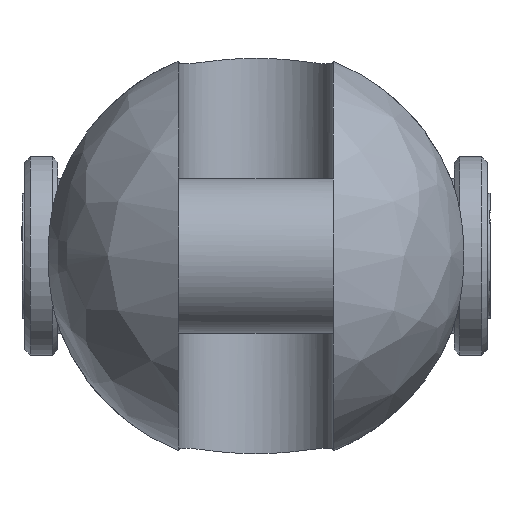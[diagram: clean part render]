
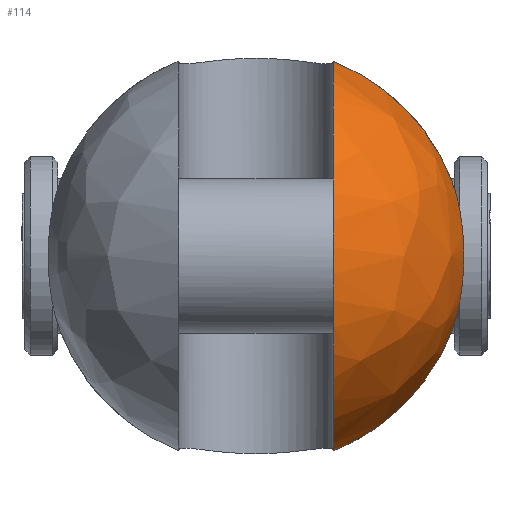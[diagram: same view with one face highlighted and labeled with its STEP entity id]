
A CAD part, left-side view. The second image highlights one B-rep face of the part: STEP entity #114.
In plain terms, the highlighted free-form (B-spline) face has degree [2, 2] with [9, 5] control points.
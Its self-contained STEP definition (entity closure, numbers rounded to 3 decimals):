
#114=ADVANCED_FACE('',(#203),#1555,.T.);
#203=FACE_OUTER_BOUND('',#303,.T.);
#303=EDGE_LOOP('',(#755,#756,#757,#758));
#755=ORIENTED_EDGE('',*,*,#1015,.T.);
#756=ORIENTED_EDGE('',*,*,#1012,.F.);
#757=ORIENTED_EDGE('',*,*,#1030,.T.);
#758=ORIENTED_EDGE('',*,*,#1006,.F.);
#1006=EDGE_CURVE('',#1444,#1445,#1273,.T.);
#1012=EDGE_CURVE('',#1452,#1453,#1274,.T.);
#1015=EDGE_CURVE('',#1444,#1453,#1276,.T.);
#1030=EDGE_CURVE('',#1452,#1445,#1141,.T.);
#1141=B_SPLINE_CURVE_WITH_KNOTS('',3,(#3589,#3590,#3591,#3592,#3593,#3594,
#3595,#3596,#3597,#3598),.UNSPECIFIED.,.F.,.F.,(4,2,2,2,4),(0.,3.573,
7.366,11.159,14.732),.UNSPECIFIED.);
#1273=(
BOUNDED_CURVE()
B_SPLINE_CURVE(2,(#3503,#3504,#3505),.UNSPECIFIED.,.F.,.F.)
B_SPLINE_CURVE_WITH_KNOTS((3,3),(0.,15.92),.UNSPECIFIED.)
CURVE()
GEOMETRIC_REPRESENTATION_ITEM()
RATIONAL_B_SPLINE_CURVE((1.,0.914,1.))
REPRESENTATION_ITEM('')
);
#1274=(
BOUNDED_CURVE()
B_SPLINE_CURVE(2,(#3528,#3529,#3530),.UNSPECIFIED.,.F.,.F.)
B_SPLINE_CURVE_WITH_KNOTS((3,3),(0.,15.92),.UNSPECIFIED.)
CURVE()
GEOMETRIC_REPRESENTATION_ITEM()
RATIONAL_B_SPLINE_CURVE((1.,0.914,1.))
REPRESENTATION_ITEM('')
);
#1276=(
BOUNDED_CURVE()
B_SPLINE_CURVE(2,(#3536,#3537,#3538,#3539,#3540),.UNSPECIFIED.,.F.,.F.)
B_SPLINE_CURVE_WITH_KNOTS((3,2,3),(-55.492,-27.746,
0.),.UNSPECIFIED.)
CURVE()
GEOMETRIC_REPRESENTATION_ITEM()
RATIONAL_B_SPLINE_CURVE((1.,0.707,1.,0.707,1.))
REPRESENTATION_ITEM('')
);
#1444=VERTEX_POINT('',#3335);
#1445=VERTEX_POINT('',#3336);
#1452=VERTEX_POINT('',#3343);
#1453=VERTEX_POINT('',#3344);
#1555=(
BOUNDED_SURFACE()
B_SPLINE_SURFACE(2,2,((#3207,#3208,#3209,#3210,#3211),(#3212,#3213,#3214,
#3215,#3216),(#3217,#3218,#3219,#3220,#3221),(#3222,#3223,#3224,#3225,#3226),
(#3227,#3228,#3229,#3230,#3231),(#3232,#3233,#3234,#3235,#3236),(#3237,
#3238,#3239,#3240,#3241),(#3242,#3243,#3244,#3245,#3246),(#3247,#3248,#3249,
#3250,#3251)),.UNSPECIFIED.,.T.,.F.,.F.)
B_SPLINE_SURFACE_WITH_KNOTS((3,2,2,2,3),(3,2,3),(0.,1.571,3.142,
4.712,6.283),(-1.571,0.,1.571),
 .UNSPECIFIED.)
GEOMETRIC_REPRESENTATION_ITEM()
RATIONAL_B_SPLINE_SURFACE(((1.,0.707,1.,0.707,1.),
(0.707,0.5,0.707,0.5,0.707),(1.,0.707,
1.,0.707,1.),(0.707,0.5,0.707,0.5,0.707),
(1.,0.707,1.,0.707,1.),(0.707,0.5,0.707,
0.5,0.707),(1.,0.707,1.,0.707,1.),(0.707,
0.5,0.707,0.5,0.707),(1.,0.707,1.,0.707,
1.)))
REPRESENTATION_ITEM('')
SURFACE()
);
#3207=CARTESIAN_POINT('',(-26.5,0.,0.));
#3208=CARTESIAN_POINT('',(-26.5,19.,0.));
#3209=CARTESIAN_POINT('',(-7.5,19.,0.));
#3210=CARTESIAN_POINT('',(11.5,19.,0.));
#3211=CARTESIAN_POINT('',(11.5,0.,0.));
#3212=CARTESIAN_POINT('',(-26.5,0.,0.));
#3213=CARTESIAN_POINT('',(-26.5,19.,19.));
#3214=CARTESIAN_POINT('',(-7.5,19.,19.));
#3215=CARTESIAN_POINT('',(11.5,19.,19.));
#3216=CARTESIAN_POINT('',(11.5,0.,0.));
#3217=CARTESIAN_POINT('',(-26.5,0.,0.));
#3218=CARTESIAN_POINT('',(-26.5,0.,19.));
#3219=CARTESIAN_POINT('',(-7.5,0.,19.));
#3220=CARTESIAN_POINT('',(11.5,0.,19.));
#3221=CARTESIAN_POINT('',(11.5,0.,0.));
#3222=CARTESIAN_POINT('',(-26.5,0.,0.));
#3223=CARTESIAN_POINT('',(-26.5,-19.,19.));
#3224=CARTESIAN_POINT('',(-7.5,-19.,19.));
#3225=CARTESIAN_POINT('',(11.5,-19.,19.));
#3226=CARTESIAN_POINT('',(11.5,0.,0.));
#3227=CARTESIAN_POINT('',(-26.5,0.,0.));
#3228=CARTESIAN_POINT('',(-26.5,-19.,0.));
#3229=CARTESIAN_POINT('',(-7.5,-19.,0.));
#3230=CARTESIAN_POINT('',(11.5,-19.,0.));
#3231=CARTESIAN_POINT('',(11.5,0.,0.));
#3232=CARTESIAN_POINT('',(-26.5,0.,0.));
#3233=CARTESIAN_POINT('',(-26.5,-19.,-19.));
#3234=CARTESIAN_POINT('',(-7.5,-19.,-19.));
#3235=CARTESIAN_POINT('',(11.5,-19.,-19.));
#3236=CARTESIAN_POINT('',(11.5,0.,0.));
#3237=CARTESIAN_POINT('',(-26.5,0.,0.));
#3238=CARTESIAN_POINT('',(-26.5,0.,-19.));
#3239=CARTESIAN_POINT('',(-7.5,0.,-19.));
#3240=CARTESIAN_POINT('',(11.5,0.,-19.));
#3241=CARTESIAN_POINT('',(11.5,0.,0.));
#3242=CARTESIAN_POINT('',(-26.5,0.,0.));
#3243=CARTESIAN_POINT('',(-26.5,19.,-19.));
#3244=CARTESIAN_POINT('',(-7.5,19.,-19.));
#3245=CARTESIAN_POINT('',(11.5,19.,-19.));
#3246=CARTESIAN_POINT('',(11.5,0.,0.));
#3247=CARTESIAN_POINT('',(-26.5,0.,0.));
#3248=CARTESIAN_POINT('',(-26.5,19.,0.));
#3249=CARTESIAN_POINT('',(-7.5,19.,0.));
#3250=CARTESIAN_POINT('',(11.5,19.,0.));
#3251=CARTESIAN_POINT('',(11.5,0.,0.));
#3335=CARTESIAN_POINT('',(-7.5,-7.,17.664));
#3336=CARTESIAN_POINT('',(-7.5,-17.812,6.614));
#3343=CARTESIAN_POINT('',(-7.5,-17.812,-6.614));
#3344=CARTESIAN_POINT('',(-7.5,-7.,-17.664));
#3503=CARTESIAN_POINT('',(-7.5,-7.,17.664));
#3504=CARTESIAN_POINT('',(-7.5,-14.866,14.546));
#3505=CARTESIAN_POINT('',(-7.5,-17.812,6.614));
#3528=CARTESIAN_POINT('',(-7.5,-17.812,-6.614));
#3529=CARTESIAN_POINT('',(-7.5,-14.866,-14.546));
#3530=CARTESIAN_POINT('',(-7.5,-7.,-17.664));
#3536=CARTESIAN_POINT('',(-7.5,-7.,17.664));
#3537=CARTESIAN_POINT('',(-25.164,-7.,17.664));
#3538=CARTESIAN_POINT('',(-25.164,-7.,0.));
#3539=CARTESIAN_POINT('',(-25.164,-7.,-17.664));
#3540=CARTESIAN_POINT('',(-7.5,-7.,-17.664));
#3589=CARTESIAN_POINT('',(-7.5,-17.812,-6.614));
#3590=CARTESIAN_POINT('',(-8.228,-18.118,-5.788));
#3591=CARTESIAN_POINT('',(-8.869,-18.38,-4.771));
#3592=CARTESIAN_POINT('',(-9.769,-18.743,-2.485));
#3593=CARTESIAN_POINT('',(-10.,-18.835,-1.204));
#3594=CARTESIAN_POINT('',(-10.,-18.835,1.204));
#3595=CARTESIAN_POINT('',(-9.769,-18.743,2.485));
#3596=CARTESIAN_POINT('',(-8.869,-18.38,4.771));
#3597=CARTESIAN_POINT('',(-8.228,-18.118,5.788));
#3598=CARTESIAN_POINT('',(-7.5,-17.812,6.614));
